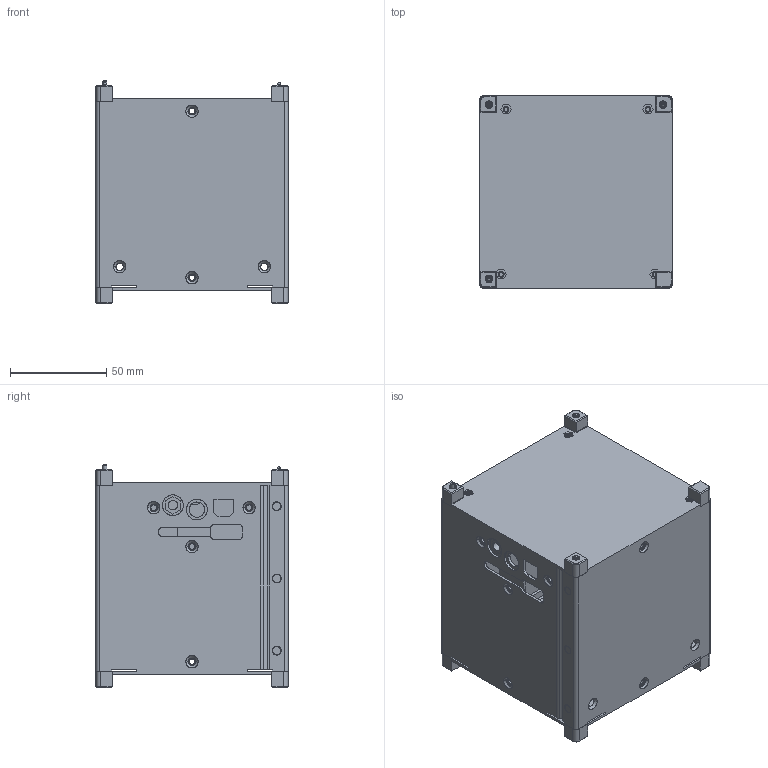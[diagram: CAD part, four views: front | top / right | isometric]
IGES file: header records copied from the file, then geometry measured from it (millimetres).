
Start section: SolidWorks IGES file using NURBS representation for surfaces
Global section: file name: E:\Client\CubeSat\STEP files\1U\CSK_1U_Chassis_Solid_RevD.IGS; native system: SolidWorks 2006 by SolidWorks Corporation; preprocessor: SolidWorks 2006 by SolidWorks Corporation; author: Adam Reif; date: 081008.021835; units: inch
Bounding box: 100 x 100 x 116.04 mm (x, y, z)
Surface area: 130712.6 mm2 (no closed solid volume)
Topology: 0 solids, 0 shells, 2049 faces, 19159 edges, 19153 vertices
Faces by surface type: bspline 2049
